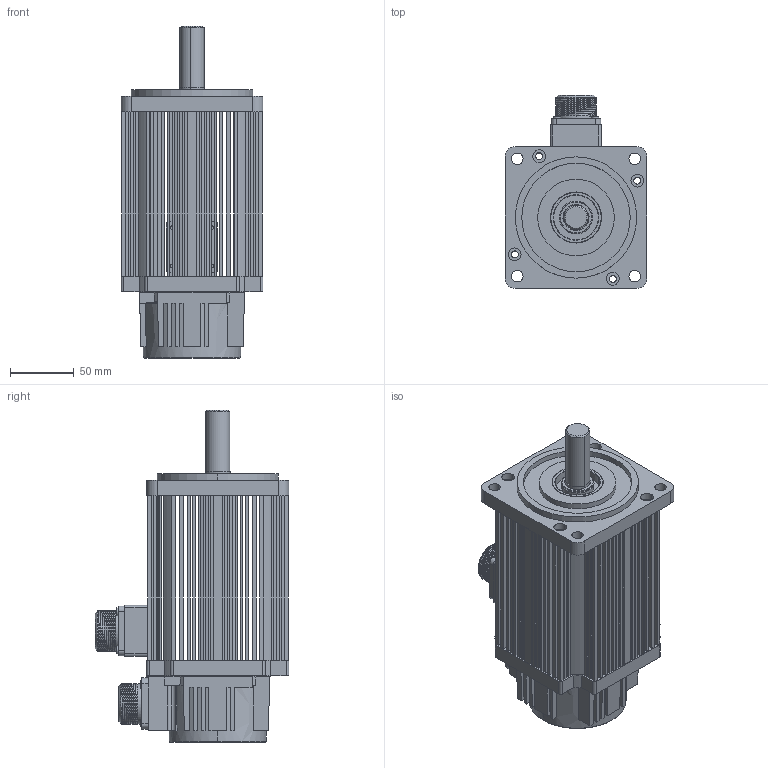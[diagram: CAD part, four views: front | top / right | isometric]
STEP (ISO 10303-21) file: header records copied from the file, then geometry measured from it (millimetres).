
FILE_DESCRIPTION (( 'STEP AP203' ), '1' );
FILE_NAME ('110ST-M05030.STEP', '2016-09-07T01:11:32', ( 'abc' ), ( 'Microsoft' ), 'SwSTEP 2.0', 'SolidWorks 2014', '' );
FILE_SCHEMA (( 'CONFIG_CONTROL_DESIGN' ));
Length unit declared in the file: millimetre
Products named in the file (1): 110ST-M05030
Bounding box: 111.2 x 151.6 x 260 mm (x, y, z)
Surface area: 191045.3 mm2 (no closed solid volume)
Topology: 0 solids, 81 shells, 667 faces, 2007 edges, 1422 vertices
Faces by surface type: plane 380, cylinder 238, sphere 25, torus 14, cone 8, bspline 2
Entity records: 24904 total; most frequent: CARTESIAN_POINT 7620, DIRECTION 3635, ORIENTED_EDGE 3087, EDGE_CURVE 1932, VERTEX_POINT 1372, LINE 1237, VECTOR 1237, AXIS2_PLACEMENT_3D 1199
